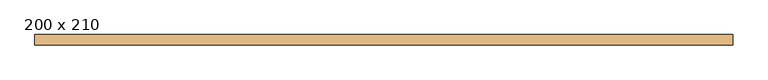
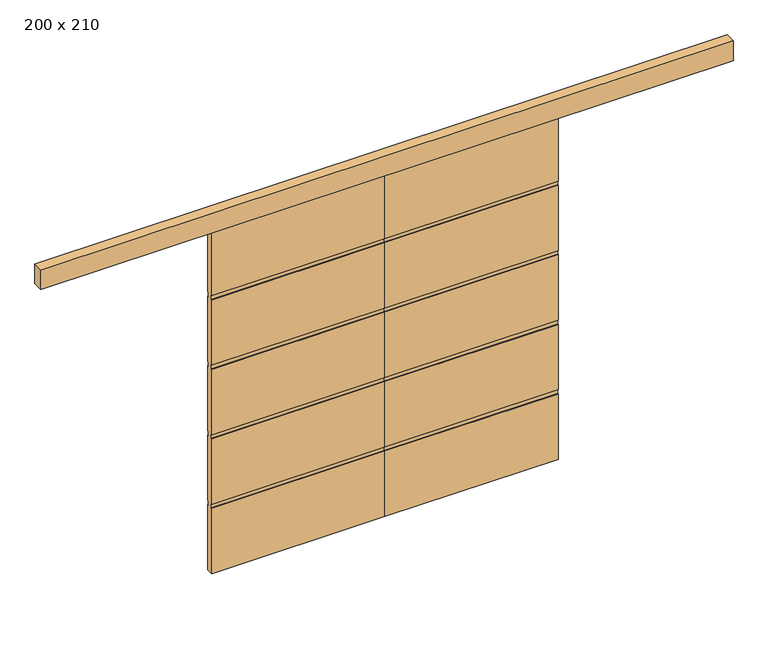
"""IFC4 building model written with IfcOpenShell, lengths in millimetres: door geometry, PORTA DE CORRER EM TRILHO LATERAL - 2 FOLHAS : 200 x 210."""

from ifc_helpers import new_model, si_unit, frame, origin, place, context, project, spatial, polyline, outline, extrude, source, transform, mapped, element, save


def door_200_x_210_965aee03(model_context):
    return source(origin(), model_context, "Body", "SweptSolid", [
        extrude(outline(polyline([(-75.0, 2100.0), (-75.0, 1700.0), (-80.0, 1700.0), (-80.0, 1675.0), (-75.0, 1675.0), (-75.0, 1275.0), (-80.0, 1275.0), (-80.0, 1250.0), (-75.0, 1250.0), (-75.0, 850.0), (-80.0, 850.0), (-80.0, 825.0), (-75.0, 825.0), (-75.0, 425.0), (-80.0, 425.0), (-80.0, 400.0), (-75.0, 400.0), (-75.0, 0.0), (-115.0, 0.0), (-115.0, 400.0), (-110.0, 400.0), (-110.0, 425.0), (-115.0, 425.0), (-115.0, 825.0), (-110.0, 825.0), (-110.0, 850.0), (-115.0, 850.0), (-115.0, 1250.0), (-110.0, 1250.0), (-110.0, 1275.0), (-115.0, 1275.0), (-115.0, 1675.0), (-110.0, 1675.0), (-110.0, 1700.0), (-115.0, 1700.0), (-115.0, 2100.0), (-75.0, 2100.0)])), frame((0.0, 0.0, 0.0), z_axis=(1.0, 0.0, 0.0), x_axis=(0.0, 1.0, 0.0)), (0.0, 0.0, 1.0), 1000.0),
        extrude(outline(polyline([(-115.0, 2100.0), (-75.0, 2100.0), (-75.0, 1700.0), (-80.0, 1700.0), (-80.0, 1675.0), (-75.0, 1675.0), (-75.0, 1275.0), (-80.0, 1275.0), (-80.0, 1250.0), (-75.0, 1250.0), (-75.0, 850.0), (-80.0, 850.0), (-80.0, 825.0), (-75.0, 825.0), (-75.0, 425.0), (-80.0, 425.0), (-80.0, 400.0), (-75.0, 400.0), (-75.0, 0.0), (-115.0, 0.0), (-115.0, 400.0), (-110.0, 400.0), (-110.0, 425.0), (-115.0, 425.0), (-115.0, 825.0), (-110.0, 825.0), (-110.0, 850.0), (-115.0, 850.0), (-115.0, 1250.0), (-110.0, 1250.0), (-110.0, 1275.0), (-115.0, 1275.0), (-115.0, 1675.0), (-110.0, 1675.0), (-110.0, 1700.0), (-115.0, 1700.0), (-115.0, 2100.0)])), frame((-1000.0, 0.0, 0.0), z_axis=(1.0, 0.0, 0.0), x_axis=(0.0, 1.0, 0.0)), (0.0, 0.0, 1.0), 1000.0),
        extrude(outline(polyline([(2000.0, -135.0), (-2000.0, -135.0), (-2000.0, -75.0), (2000.0, -75.0), (2000.0, -135.0)])), frame((0.0, 0.0, 2100.0), z_axis=(0.0, 0.0, 1.0), x_axis=(1.0, 0.0, 0.0)), (0.0, 0.0, 1.0), 120.0),
    ])


if __name__ == "__main__":
    model = new_model("IFC4")
    model_context = context("Model", 3, world=origin())
    ifc_project = project(units=[si_unit("LENGTHUNIT", "METRE", prefix="MILLI")], contexts=[model_context])
    site = spatial("IfcSite", under=ifc_project)
    building = spatial("IfcBuilding", under=site)
    placement = place(None, origin())
    door_200_x_210_shape = door_200_x_210_965aee03(model_context)
    element("IfcDoor", 1, ObjectType="PORTA DE CORRER EM TRILHO LATERAL - 2 FOLHAS : 200 x 210", at=placement, inside=building, context=model_context, shape_type="MappedRepresentation", body=[
        mapped(door_200_x_210_shape, transform((0.0, 0.0, 0.0), x_axis=(1.0, 0.0, 0.0), y_axis=(0.0, 1.0, 0.0), z_axis=(0.0, 0.0, 1.0))),
    ])
    save(model, "model.ifc")
